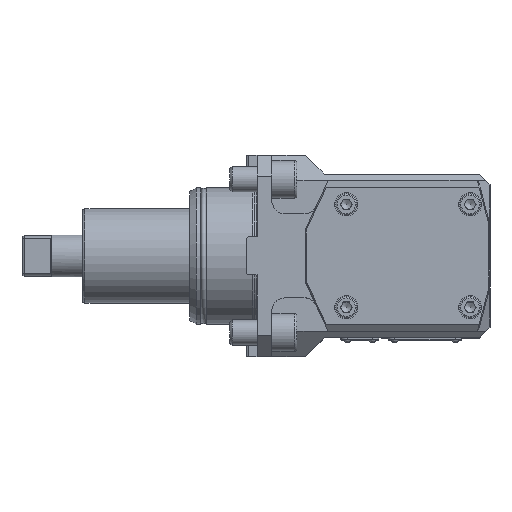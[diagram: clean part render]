
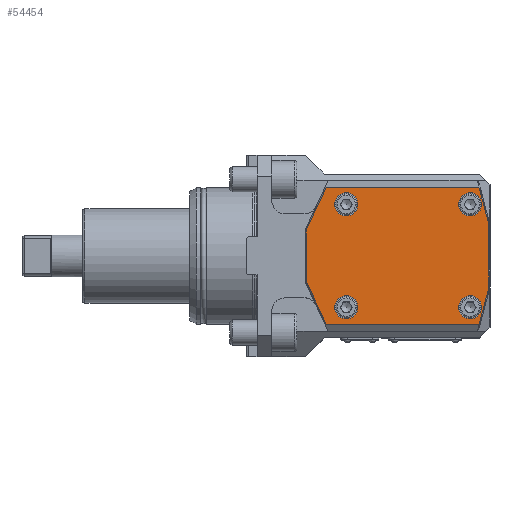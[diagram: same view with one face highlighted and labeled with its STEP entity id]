
A CAD part, top view. The second image highlights one B-rep face of the part: STEP entity #54454.
In plain terms, the highlighted planar face has unit normal (0, 0, 1).
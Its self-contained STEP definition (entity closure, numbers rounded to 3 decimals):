
#23887=VECTOR('',#36921,1.);
#23888=VECTOR('',#36922,1.);
#23889=VECTOR('',#36923,1.);
#23890=VECTOR('',#36924,1.);
#23891=VECTOR('',#36925,1.);
#23892=VECTOR('',#36926,1.);
#23893=VECTOR('',#36927,1.);
#23894=VECTOR('',#36928,1.);
#25091=LINE('',#40865,#23887);
#25092=LINE('',#40867,#23888);
#25093=LINE('',#40869,#23889);
#25094=LINE('',#40871,#23890);
#25095=LINE('',#40873,#23891);
#25096=LINE('',#40875,#23892);
#25097=LINE('',#40877,#23893);
#25098=LINE('',#40878,#23894);
#26295=PLANE('',#52870);
#26834=ORIENTED_EDGE('',*,*,#32698,.F.);
#26835=ORIENTED_EDGE('',*,*,#32699,.F.);
#26836=ORIENTED_EDGE('',*,*,#32700,.F.);
#26837=ORIENTED_EDGE('',*,*,#32701,.F.);
#26838=ORIENTED_EDGE('',*,*,#32702,.F.);
#26839=ORIENTED_EDGE('',*,*,#32703,.F.);
#26840=ORIENTED_EDGE('',*,*,#32704,.F.);
#26841=ORIENTED_EDGE('',*,*,#32705,.F.);
#26842=ORIENTED_EDGE('',*,*,#32696,.F.);
#26843=ORIENTED_EDGE('',*,*,#32706,.F.);
#26844=ORIENTED_EDGE('',*,*,#32707,.F.);
#26845=ORIENTED_EDGE('',*,*,#32708,.F.);
#30802=CIRCLE('',#52868,5.5);
#30804=CIRCLE('',#52871,5.5);
#30805=CIRCLE('',#52872,5.5);
#30806=CIRCLE('',#52873,5.5);
#31322=VERTEX_POINT('',#40858);
#31324=VERTEX_POINT('',#40863);
#31325=VERTEX_POINT('',#40864);
#31326=VERTEX_POINT('',#40866);
#31327=VERTEX_POINT('',#40868);
#31328=VERTEX_POINT('',#40870);
#31329=VERTEX_POINT('',#40872);
#31330=VERTEX_POINT('',#40874);
#31331=VERTEX_POINT('',#40876);
#31332=VERTEX_POINT('',#40879);
#31333=VERTEX_POINT('',#40881);
#31334=VERTEX_POINT('',#40883);
#32696=EDGE_CURVE('',#31322,#31322,#30802,.T.);
#32698=EDGE_CURVE('',#31324,#31325,#25091,.T.);
#32699=EDGE_CURVE('',#31326,#31324,#25092,.T.);
#32700=EDGE_CURVE('',#31327,#31326,#25093,.T.);
#32701=EDGE_CURVE('',#31328,#31327,#25094,.T.);
#32702=EDGE_CURVE('',#31329,#31328,#25095,.T.);
#32703=EDGE_CURVE('',#31330,#31329,#25096,.T.);
#32704=EDGE_CURVE('',#31331,#31330,#25097,.T.);
#32705=EDGE_CURVE('',#31325,#31331,#25098,.T.);
#32706=EDGE_CURVE('',#31332,#31332,#30804,.T.);
#32707=EDGE_CURVE('',#31333,#31333,#30805,.T.);
#32708=EDGE_CURVE('',#31334,#31334,#30806,.T.);
#34683=EDGE_LOOP('',(#26834,#26835,#26836,#26837,#26838,#26839,#26840,#26841));
#34684=EDGE_LOOP('',(#26842));
#34685=EDGE_LOOP('',(#26843));
#34686=EDGE_LOOP('',(#26844));
#34687=EDGE_LOOP('',(#26845));
#35792=FACE_BOUND('',#34683,.T.);
#35793=FACE_BOUND('',#34684,.T.);
#35794=FACE_BOUND('',#34685,.T.);
#35795=FACE_BOUND('',#34686,.T.);
#35796=FACE_BOUND('',#34687,.T.);
#36915=DIRECTION('',(0.,0.,1.));
#36916=DIRECTION('',(5.5,0.,0.));
#36919=DIRECTION('',(0.,0.,1.));
#36920=DIRECTION('',(0.,-1.,0.));
#36921=DIRECTION('',(72.709,0.,0.));
#36922=DIRECTION('',(9.524,20.425,0.));
#36923=DIRECTION('',(0.,24.599,0.));
#36924=DIRECTION('',(-9.524,20.425,0.));
#36925=DIRECTION('',(-72.709,0.,0.));
#36926=DIRECTION('',(-4.767,-17.79,0.));
#36927=DIRECTION('',(0.,-29.868,0.));
#36928=DIRECTION('',(4.767,-17.79,0.));
#36929=DIRECTION('',(0.,0.,1.));
#36930=DIRECTION('',(5.5,0.,0.));
#36931=DIRECTION('',(0.,0.,1.));
#36932=DIRECTION('',(5.5,0.,0.));
#36933=DIRECTION('',(0.,0.,1.));
#36934=DIRECTION('',(5.5,0.,0.));
#40858=CARTESIAN_POINT('',(398.09,-77.298,76.437));
#40859=CARTESIAN_POINT('',(392.59,-77.298,76.437));
#40862=CARTESIAN_POINT('',(402.09,-67.798,76.437));
#40863=CARTESIAN_POINT('',(324.114,-20.074,76.437));
#40864=CARTESIAN_POINT('',(396.823,-20.074,76.437));
#40865=CARTESIAN_POINT('',(324.114,-20.074,76.437));
#40866=CARTESIAN_POINT('',(314.59,-40.499,76.437));
#40867=CARTESIAN_POINT('',(314.59,-40.499,76.437));
#40868=CARTESIAN_POINT('',(314.59,-65.098,76.437));
#40869=CARTESIAN_POINT('',(314.59,-65.098,76.437));
#40870=CARTESIAN_POINT('',(324.114,-85.523,76.437));
#40871=CARTESIAN_POINT('',(324.114,-85.523,76.437));
#40872=CARTESIAN_POINT('',(396.823,-85.523,76.437));
#40873=CARTESIAN_POINT('',(396.823,-85.523,76.437));
#40874=CARTESIAN_POINT('',(401.59,-67.733,76.437));
#40875=CARTESIAN_POINT('',(401.59,-67.733,76.437));
#40876=CARTESIAN_POINT('',(401.59,-37.864,76.437));
#40877=CARTESIAN_POINT('',(401.59,-37.864,76.437));
#40878=CARTESIAN_POINT('',(396.823,-20.074,76.437));
#40879=CARTESIAN_POINT('',(398.09,-28.298,76.437));
#40880=CARTESIAN_POINT('',(392.59,-28.298,76.437));
#40881=CARTESIAN_POINT('',(339.09,-77.298,76.437));
#40882=CARTESIAN_POINT('',(333.59,-77.298,76.437));
#40883=CARTESIAN_POINT('',(339.09,-28.298,76.437));
#40884=CARTESIAN_POINT('',(333.59,-28.298,76.437));
#52868=AXIS2_PLACEMENT_3D('',#40859,#36915,#36916);
#52870=AXIS2_PLACEMENT_3D('',#40862,#36919,#36920);
#52871=AXIS2_PLACEMENT_3D('',#40880,#36929,#36930);
#52872=AXIS2_PLACEMENT_3D('',#40882,#36931,#36932);
#52873=AXIS2_PLACEMENT_3D('',#40884,#36933,#36934);
#54454=ADVANCED_FACE('',(#35792,#35793,#35794,#35795,#35796),#26295,.T.);
